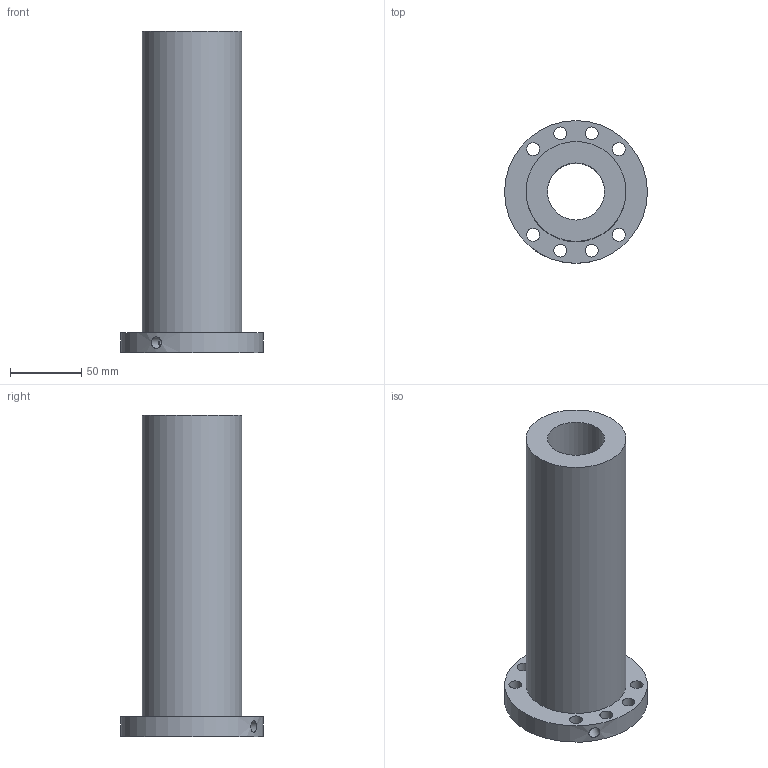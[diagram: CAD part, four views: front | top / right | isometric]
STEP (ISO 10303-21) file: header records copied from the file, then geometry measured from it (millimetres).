
FILE_DESCRIPTION(/* description */ (''),/* implementation_level */ '2;1');
FILE_NAME(/* name */ '40-20K4_635',/* time_stamp */ '2007-10-15T12:53:57+08:00',/* author */ (''),/* organization */ (''),/* preprocessor_version */ 'ST-DEVELOPER v11',/* originating_system */ 'UGS - NX 5.0',/* authorisation */ '');
FILE_SCHEMA (('CONFIG_CONTROL_DESIGN'));
Length unit declared in the file: millimetre
Products named in the file (1): 40-20K4_635
Bounding box: 100 x 100 x 225 mm (x, y, z)
Volume: 631043.1 mm3; surface area: 94989.2 mm2
Topology: 1 solids, 1 shells, 17 faces, 40 edges, 27 vertices
Faces by surface type: cylinder 13, plane 4
Full cylindrical faces by diameter (mm): 6 x1, 8 x1, 9 x8, 40 x1, 70 x1, 100 x1
Entity records: 668 total; most frequent: CARTESIAN_POINT 184, DIRECTION 84, FACE_BOUND 52, EDGE_LOOP 52, ORIENTED_EDGE 52, AXIS2_PLACEMENT_3D 42, VERTEX_POINT 26, EDGE_CURVE 26
